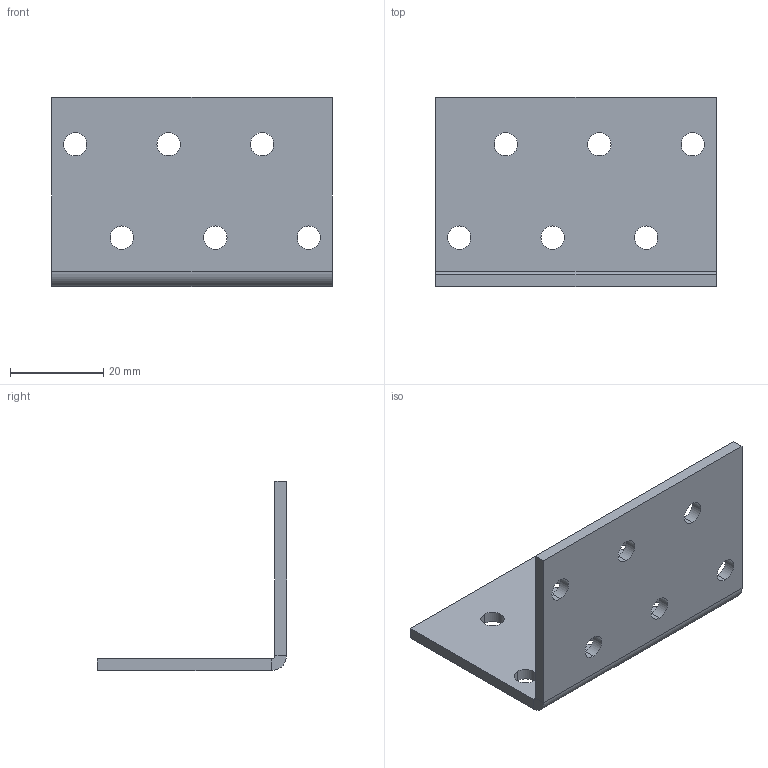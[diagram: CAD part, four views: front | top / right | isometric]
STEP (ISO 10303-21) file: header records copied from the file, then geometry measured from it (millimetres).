
FILE_DESCRIPTION (( 'STEP AP203' ), '1' );
FILE_NAME ('10522.STEP', '2021-07-02T08:36:24', ( '' ), ( '' ), 'SwSTEP 2.0', 'SolidWorks 2013', '' );
FILE_SCHEMA (( 'CONFIG_CONTROL_DESIGN' ));
Length unit declared in the file: millimetre
Products named in the file (1): 10522
Bounding box: 60 x 40.46 x 40.46 mm (x, y, z)
Volume: 11046.6 mm3; surface area: 9996.3 mm2
Topology: 1 solids, 1 shells, 38 faces, 100 edges, 64 vertices
Faces by surface type: cylinder 26, plane 12
Entity records: 1319 total; most frequent: DIRECTION 230, CARTESIAN_POINT 203, ORIENTED_EDGE 200, EDGE_CURVE 100, AXIS2_PLACEMENT_3D 91, VERTEX_POINT 64, EDGE_LOOP 62, CIRCLE 52
